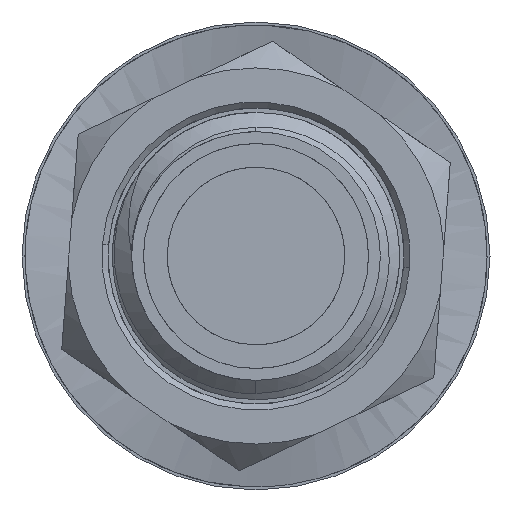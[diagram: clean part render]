
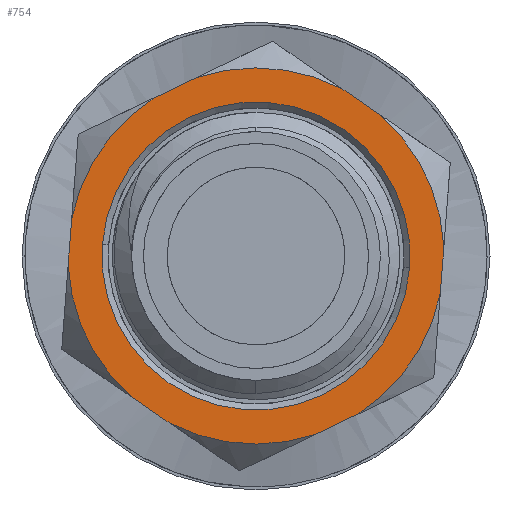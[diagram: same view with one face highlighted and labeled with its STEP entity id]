
A CAD part, front view. The second image highlights one B-rep face of the part: STEP entity #754.
In plain terms, the highlighted planar face has unit normal (0, -1, 0) as drawn and (0, 0, -1) by its records, which use the part's own axes.
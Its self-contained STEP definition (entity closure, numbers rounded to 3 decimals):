
#41 = DIRECTION ( 'NONE',  ( 0.866, 0.5, 0. ) ) ;
#92 = EDGE_CURVE ( 'NONE', #1499, #582, #1507, .T. ) ;
#219 = ORIENTED_EDGE ( 'NONE', *, *, #1631, .T. ) ;
#231 = DIRECTION ( 'NONE',  ( -0.866, 0.5, 0. ) ) ;
#377 = EDGE_CURVE ( 'NONE', #5574, #1732, #4644, .T. ) ;
#399 = DIRECTION ( 'NONE',  ( 1., 0., 0. ) ) ;
#463 = CIRCLE ( 'NONE', #2189, 3.175 ) ;
#524 = AXIS2_PLACEMENT_3D ( 'NONE', #602, #3597, #4104 ) ;
#545 = CARTESIAN_POINT ( 'NONE',  ( 0., 0., 0. ) ) ;
#577 = DIRECTION ( 'NONE',  ( 1., 0., 0. ) ) ;
#582 = VERTEX_POINT ( 'NONE', #6062 ) ;
#592 = LINE ( 'NONE', #2670, #3257 ) ;
#602 = CARTESIAN_POINT ( 'NONE',  ( 0., 3.637, 0. ) ) ;
#610 = EDGE_LOOP ( 'NONE', ( #4060, #6357 ) ) ;
#621 = ORIENTED_EDGE ( 'NONE', *, *, #4166, .F. ) ;
#633 = FACE_OUTER_BOUND ( 'NONE', #6641, .T. ) ;
#640 = EDGE_CURVE ( 'NONE', #4866, #830, #2126, .T. ) ;
#648 = CARTESIAN_POINT ( 'NONE',  ( -1.231, 2.927, 0. ) ) ;
#737 = LINE ( 'NONE', #4877, #1421 ) ;
#754 = ADVANCED_FACE ( 'NONE', ( #3127, #633 ), #3189, .F. ) ;
#771 = ORIENTED_EDGE ( 'NONE', *, *, #1389, .T. ) ;
#779 = CARTESIAN_POINT ( 'NONE',  ( 0., 0., 0. ) ) ;
#826 = LINE ( 'NONE', #5331, #6654 ) ;
#830 = VERTEX_POINT ( 'NONE', #2621 ) ;
#871 = ORIENTED_EDGE ( 'NONE', *, *, #5082, .F. ) ;
#932 = CARTESIAN_POINT ( 'NONE',  ( 3.15, 0.398, 0. ) ) ;
#1015 = AXIS2_PLACEMENT_3D ( 'NONE', #545, #1094, #5163 ) ;
#1039 = EDGE_CURVE ( 'NONE', #582, #1499, #4517, .T. ) ;
#1094 = DIRECTION ( 'NONE',  ( 0., 0., -1. ) ) ;
#1119 = VECTOR ( 'NONE', #1645, 1000. ) ;
#1249 = CARTESIAN_POINT ( 'NONE',  ( -3.15, -0.398, 0. ) ) ;
#1278 = ORIENTED_EDGE ( 'NONE', *, *, #377, .F. ) ;
#1300 = ORIENTED_EDGE ( 'NONE', *, *, #4221, .F. ) ;
#1348 = EDGE_CURVE ( 'NONE', #3909, #5233, #1382, .T. ) ;
#1382 = CIRCLE ( 'NONE', #2801, 3.175 ) ;
#1389 = EDGE_CURVE ( 'NONE', #3792, #4215, #3225, .T. ) ;
#1421 = VECTOR ( 'NONE', #231, 1000. ) ;
#1431 = CARTESIAN_POINT ( 'NONE',  ( 0., 0., 0. ) ) ;
#1473 = CARTESIAN_POINT ( 'NONE',  ( 0., 0., 0. ) ) ;
#1487 = ORIENTED_EDGE ( 'NONE', *, *, #5392, .T. ) ;
#1499 = VERTEX_POINT ( 'NONE', #4703 ) ;
#1507 = CIRCLE ( 'NONE', #5286, 2.6 ) ;
#1520 = ORIENTED_EDGE ( 'NONE', *, *, #3450, .F. ) ;
#1535 = DIRECTION ( 'NONE',  ( 1., 0., 0. ) ) ;
#1631 = EDGE_CURVE ( 'NONE', #5574, #3881, #3758, .T. ) ;
#1645 = DIRECTION ( 'NONE',  ( -0.866, -0.5, 0. ) ) ;
#1732 = VERTEX_POINT ( 'NONE', #4466 ) ;
#1785 = CARTESIAN_POINT ( 'NONE',  ( 0., 0., 0. ) ) ;
#1823 = CARTESIAN_POINT ( 'NONE',  ( -1.231, -2.927, 0. ) ) ;
#1933 = DIRECTION ( 'NONE',  ( 0., 0., 1. ) ) ;
#2126 = CIRCLE ( 'NONE', #5627, 3.175 ) ;
#2132 = AXIS2_PLACEMENT_3D ( 'NONE', #1785, #3822, #2748 ) ;
#2151 = CARTESIAN_POINT ( 'NONE',  ( 3.15, -0.398, 0. ) ) ;
#2189 = AXIS2_PLACEMENT_3D ( 'NONE', #4171, #5227, #577 ) ;
#2197 = CARTESIAN_POINT ( 'NONE',  ( 0., -3.637, 0. ) ) ;
#2621 = CARTESIAN_POINT ( 'NONE',  ( 1.231, 2.927, 0. ) ) ;
#2670 = CARTESIAN_POINT ( 'NONE',  ( -3.15, 1.819, 0. ) ) ;
#2748 = DIRECTION ( 'NONE',  ( 1., 0., 0. ) ) ;
#2749 = DIRECTION ( 'NONE',  ( 0., 0., -1. ) ) ;
#2774 = ORIENTED_EDGE ( 'NONE', *, *, #640, .T. ) ;
#2801 = AXIS2_PLACEMENT_3D ( 'NONE', #1431, #3006, #1535 ) ;
#3006 = DIRECTION ( 'NONE',  ( 0., 0., -1. ) ) ;
#3115 = VERTEX_POINT ( 'NONE', #3928 ) ;
#3127 = FACE_BOUND ( 'NONE', #610, .T. ) ;
#3189 = PLANE ( 'NONE',  #524 ) ;
#3225 = CIRCLE ( 'NONE', #3655, 3.175 ) ;
#3257 = VECTOR ( 'NONE', #3883, 1000. ) ;
#3301 = CARTESIAN_POINT ( 'NONE',  ( 1.231, -2.927, 0. ) ) ;
#3440 = ORIENTED_EDGE ( 'NONE', *, *, #1348, .T. ) ;
#3450 = EDGE_CURVE ( 'NONE', #3115, #4215, #592, .T. ) ;
#3496 = DIRECTION ( 'NONE',  ( 0., 0., -1. ) ) ;
#3558 = AXIS2_PLACEMENT_3D ( 'NONE', #779, #2749, #6024 ) ;
#3597 = DIRECTION ( 'NONE',  ( 0., 0., 1. ) ) ;
#3605 = CARTESIAN_POINT ( 'NONE',  ( -1.919, -2.529, 0. ) ) ;
#3655 = AXIS2_PLACEMENT_3D ( 'NONE', #4507, #4004, #4040 ) ;
#3696 = ORIENTED_EDGE ( 'NONE', *, *, #5468, .T. ) ;
#3758 = CIRCLE ( 'NONE', #3558, 3.175 ) ;
#3792 = VERTEX_POINT ( 'NONE', #3605 ) ;
#3822 = DIRECTION ( 'NONE',  ( 0., 0., 1. ) ) ;
#3881 = VERTEX_POINT ( 'NONE', #1823 ) ;
#3883 = DIRECTION ( 'NONE',  ( 0., -1., 0. ) ) ;
#3909 = VERTEX_POINT ( 'NONE', #5435 ) ;
#3928 = CARTESIAN_POINT ( 'NONE',  ( -3.15, 0.398, 0. ) ) ;
#3929 = CARTESIAN_POINT ( 'NONE',  ( -3.15, -1.819, 0. ) ) ;
#4004 = DIRECTION ( 'NONE',  ( 0., 0., -1. ) ) ;
#4040 = DIRECTION ( 'NONE',  ( 1., 0., 0. ) ) ;
#4060 = ORIENTED_EDGE ( 'NONE', *, *, #92, .T. ) ;
#4104 = DIRECTION ( 'NONE',  ( 1., 0., 0. ) ) ;
#4141 = CIRCLE ( 'NONE', #1015, 3.175 ) ;
#4166 = EDGE_CURVE ( 'NONE', #3792, #3881, #4429, .T. ) ;
#4171 = CARTESIAN_POINT ( 'NONE',  ( 0., 0., 0. ) ) ;
#4215 = VERTEX_POINT ( 'NONE', #1249 ) ;
#4221 = EDGE_CURVE ( 'NONE', #3909, #830, #737, .T. ) ;
#4429 = LINE ( 'NONE', #3929, #4770 ) ;
#4466 = CARTESIAN_POINT ( 'NONE',  ( 1.919, -2.529, 0. ) ) ;
#4507 = CARTESIAN_POINT ( 'NONE',  ( 0., 0., 0. ) ) ;
#4517 = CIRCLE ( 'NONE', #2132, 2.6 ) ;
#4609 = CARTESIAN_POINT ( 'NONE',  ( 0., 0., 0. ) ) ;
#4644 = LINE ( 'NONE', #2197, #6502 ) ;
#4703 = CARTESIAN_POINT ( 'NONE',  ( -2.6, 0., 0. ) ) ;
#4747 = VERTEX_POINT ( 'NONE', #6726 ) ;
#4770 = VECTOR ( 'NONE', #5425, 1000. ) ;
#4796 = CARTESIAN_POINT ( 'NONE',  ( 0., 3.637, 0. ) ) ;
#4866 = VERTEX_POINT ( 'NONE', #648 ) ;
#4877 = CARTESIAN_POINT ( 'NONE',  ( 3.15, 1.819, 0. ) ) ;
#4992 = DIRECTION ( 'NONE',  ( 1., 0., 0. ) ) ;
#5082 = EDGE_CURVE ( 'NONE', #6657, #5233, #826, .T. ) ;
#5163 = DIRECTION ( 'NONE',  ( 1., 0., 0. ) ) ;
#5227 = DIRECTION ( 'NONE',  ( 0., 0., -1. ) ) ;
#5233 = VERTEX_POINT ( 'NONE', #932 ) ;
#5243 = LINE ( 'NONE', #4796, #1119 ) ;
#5286 = AXIS2_PLACEMENT_3D ( 'NONE', #1473, #1933, #4992 ) ;
#5331 = CARTESIAN_POINT ( 'NONE',  ( 3.15, -1.819, 0. ) ) ;
#5392 = EDGE_CURVE ( 'NONE', #3115, #4747, #4141, .T. ) ;
#5404 = DIRECTION ( 'NONE',  ( 0., 1., 0. ) ) ;
#5425 = DIRECTION ( 'NONE',  ( 0.866, -0.5, 0. ) ) ;
#5435 = CARTESIAN_POINT ( 'NONE',  ( 1.919, 2.529, 0. ) ) ;
#5468 = EDGE_CURVE ( 'NONE', #6657, #1732, #463, .T. ) ;
#5574 = VERTEX_POINT ( 'NONE', #3301 ) ;
#5627 = AXIS2_PLACEMENT_3D ( 'NONE', #4609, #3496, #399 ) ;
#5721 = EDGE_CURVE ( 'NONE', #4866, #4747, #5243, .T. ) ;
#6024 = DIRECTION ( 'NONE',  ( 1., 0., 0. ) ) ;
#6062 = CARTESIAN_POINT ( 'NONE',  ( 2.6, 0., 0. ) ) ;
#6223 = ORIENTED_EDGE ( 'NONE', *, *, #5721, .F. ) ;
#6357 = ORIENTED_EDGE ( 'NONE', *, *, #1039, .T. ) ;
#6502 = VECTOR ( 'NONE', #41, 1000. ) ;
#6641 = EDGE_LOOP ( 'NONE', ( #871, #3696, #1278, #219, #621, #771, #1520, #1487, #6223, #2774, #1300, #3440 ) ) ;
#6654 = VECTOR ( 'NONE', #5404, 1000. ) ;
#6657 = VERTEX_POINT ( 'NONE', #2151 ) ;
#6726 = CARTESIAN_POINT ( 'NONE',  ( -1.919, 2.529, 0. ) ) ;
